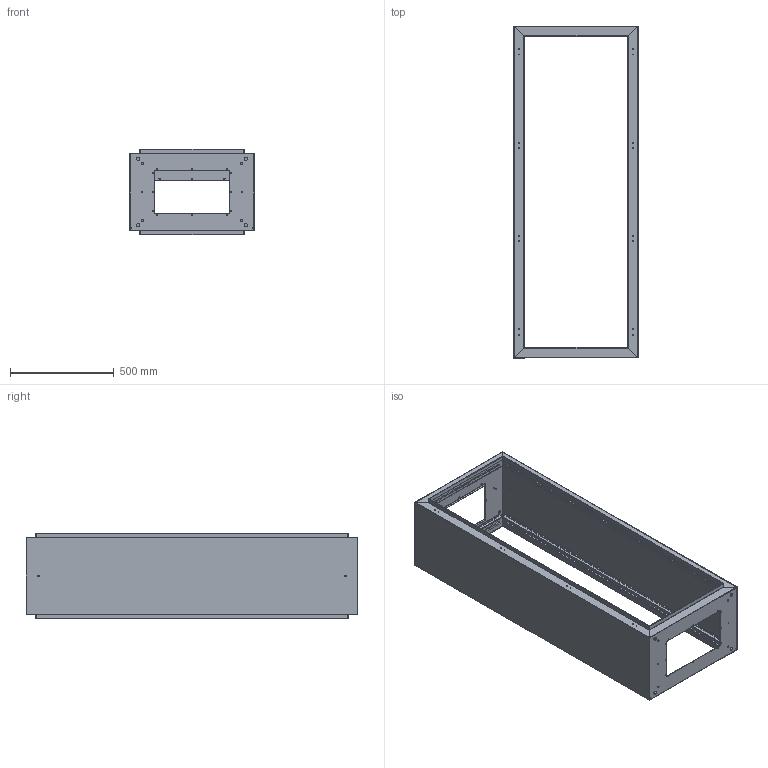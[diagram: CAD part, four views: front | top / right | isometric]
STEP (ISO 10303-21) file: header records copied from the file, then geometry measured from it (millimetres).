
FILE_DESCRIPTION (( 'STEP AP203' ), '1' );
FILE_NAME ('600x1600x400.STEP', '2021-11-11T16:39:02', ( '' ), ( '' ), 'SwSTEP 2.0', 'SolidWorks 2019', '' );
FILE_SCHEMA (( 'CONFIG_CONTROL_DESIGN' ));
Length unit declared in the file: millimetre
Products named in the file (4): Yan Kapak 1,5mm_monoblok_tekkapakrevize_PP 16.1002 - 1600Yx400D YAN; Üst Kapak 1,5mm_monoblok_tekkapakrevize_PP 16.1009 600Gx400D šST; 600x1600x400; Alt Kapak 1,5mm_monoblok_tekkapakrevize_PP 16.1018 600Gx400D ALT
Assembly tree (4 placements, depth 2):
  600x1600x400
    Alt Kapak 1,5mm_monoblok_tekkapakrevize_PP 16.1018 600Gx400D ALT
    Üst Kapak 1,5mm_monoblok_tekkapakrevize_PP 16.1009 600Gx400D šST
    Yan Kapak 1,5mm_monoblok_tekkapakrevize_PP 16.1002 - 1600Yx400D YAN  x2
Bounding box: 600 x 1600 x 411.92 mm (x, y, z)
Volume: 3941232.7 mm3; surface area: 5328083.9 mm2
Topology: 4 solids, 4 shells, 4268 faces, 12516 edges, 8264 vertices
Faces by surface type: plane 2764, cylinder 1488, bspline 16
Entity records: 94826 total; most frequent: CARTESIAN_POINT 16559, ORIENTED_EDGE 16048, DIRECTION 15374, EDGE_CURVE 8024, VECTOR 6112, LINE 6112, VERTEX_POINT 5288, AXIS2_PLACEMENT_3D 4631
